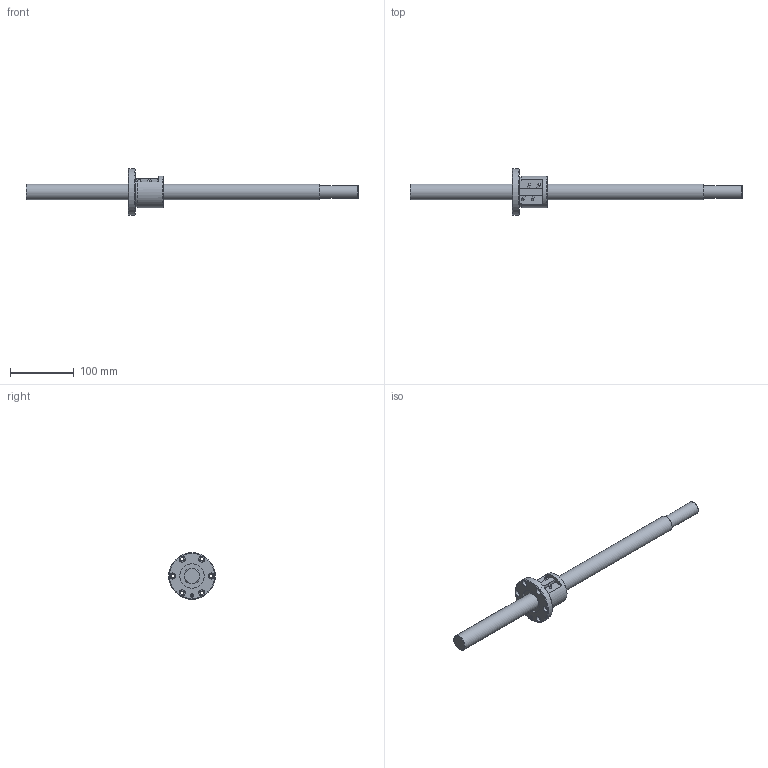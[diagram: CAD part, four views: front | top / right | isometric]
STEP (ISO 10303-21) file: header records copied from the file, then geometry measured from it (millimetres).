
FILE_DESCRIPTION(/* description */ ('STEP AP203'),/* implementation_level */ '2;1');
FILE_NAME(/* name */ 'BNF2505-5RRG1+520LC5A(00)',/* time_stamp */ '2024-07-15T07:41:32+02:00',/* author */ ('License CC BY-ND 4.0'),/* organization */ ('CADENAS'),/* preprocessor_version */ 'ST-DEVELOPER v19.3',/* originating_system */ 'PARTsolutions',/* authorisation */ ' ');
FILE_SCHEMA (('CONFIG_CONTROL_DESIGN'));
Length unit declared in the file: millimetre
Products named in the file (3): BNF2505-5RRG1+520LC5A(00); BNF2505-5RRG1+520LC5A(00)_shaft; BNF 2505-5RR_nut
Assembly tree (2 placements, depth 2):
  BNF2505-5RRG1+520LC5A(00)
    BNF2505-5RRG1+520LC5A(00)_shaft
    BNF 2505-5RR_nut
Bounding box: 520 x 73 x 73 mm (x, y, z)
Volume: 334645 mm3; surface area: 64776.7 mm2
Topology: 2 solids, 2 shells, 69 faces, 159 edges, 104 vertices
Faces by surface type: cylinder 32, plane 24, cone 9, torus 4
Full cylindrical faces by diameter (mm): 2.75 x2, 3.331 x4, 4.917 x1, 5.5 x6, 9.5 x6, 20.3 x1, 25 x2, 38 x2, 50 x1, 73 x1
Entity records: 1811 total; most frequent: DIRECTION 316, CARTESIAN_POINT 314, ORIENTED_EDGE 212, AXIS2_PLACEMENT_3D 146, EDGE_LOOP 142, FACE_BOUND 142, EDGE_CURVE 106, VERTEX_POINT 90
